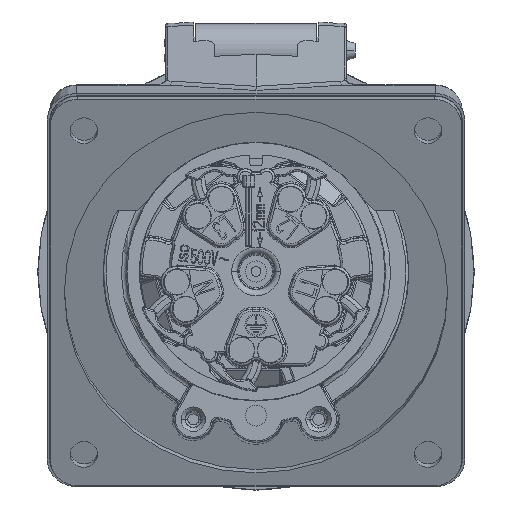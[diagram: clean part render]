
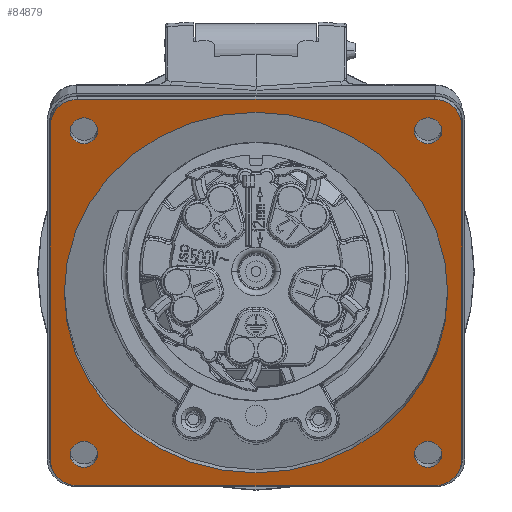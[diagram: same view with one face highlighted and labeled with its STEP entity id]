
A CAD part, top view. The second image highlights one B-rep face of the part: STEP entity #84879.
In plain terms, the highlighted planar face has unit normal (0, -0.342, 0.94).
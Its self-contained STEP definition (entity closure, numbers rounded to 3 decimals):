
#12987=CARTESIAN_POINT('',(36.3,-38.383,24.626));
#12988=DIRECTION('',(0.,-0.342,0.94));
#12989=DIRECTION('',(0.,-0.94,-0.342));
#12990=AXIS2_PLACEMENT_3D('',#12987,#12988,#12989);
#12995=DIRECTION('',(1.,0.,0.));
#12996=VECTOR('',#12995,72.6);
#12997=CARTESIAN_POINT('',(-36.3,-43.551,22.745));
#12998=LINE('4707',#12997,#12996);
#13002=CARTESIAN_POINT('',(-36.3,-38.383,24.626));
#13003=DIRECTION('',(0.,-0.342,0.94));
#13004=DIRECTION('',(-1.,0.,0.));
#13005=AXIS2_PLACEMENT_3D('',#13002,#13003,#13004);
#13010=DIRECTION('',(0.,-0.94,-0.342));
#13011=VECTOR('',#13010,72.6);
#13012=CARTESIAN_POINT('',(-41.8,29.839,49.457));
#13013=LINE('4705',#13012,#13011);
#13017=CARTESIAN_POINT('',(-36.3,29.839,49.457));
#13018=DIRECTION('',(0.,-0.342,0.94));
#13019=DIRECTION('',(0.,0.94,0.342));
#13020=AXIS2_PLACEMENT_3D('',#13017,#13018,#13019);
#13025=DIRECTION('',(-1.,0.,0.));
#13026=VECTOR('',#13025,72.6);
#13027=CARTESIAN_POINT('',(36.3,35.007,51.338));
#13028=LINE('4703',#13027,#13026);
#13032=CARTESIAN_POINT('',(36.3,29.839,49.457));
#13033=DIRECTION('',(0.,-0.342,0.94));
#13034=DIRECTION('',(1.,0.,0.));
#13035=AXIS2_PLACEMENT_3D('',#13032,#13033,#13034);
#13040=DIRECTION('',(0.,0.94,0.342));
#13041=VECTOR('',#13040,72.6);
#13042=CARTESIAN_POINT('',(41.8,-38.383,24.626));
#13043=LINE('4701',#13042,#13041);
#13047=CARTESIAN_POINT('',(0.,-4.272,37.041));
#13048=DIRECTION('',(0.,0.342,-0.94));
#13049=DIRECTION('',(-1.,0.,0.));
#13050=AXIS2_PLACEMENT_3D('',#13047,#13048,#13049);
#13055=CARTESIAN_POINT('',(0.,-4.272,37.041));
#13056=DIRECTION('',(0.,0.342,-0.94));
#13057=DIRECTION('',(1.,0.,0.));
#13058=AXIS2_PLACEMENT_3D('',#13055,#13056,#13057);
#13063=CARTESIAN_POINT('',(35.,-37.161,25.071));
#13064=DIRECTION('',(0.,0.342,-0.94));
#13065=DIRECTION('',(1.,0.,0.));
#13066=AXIS2_PLACEMENT_3D('',#13063,#13064,#13065);
#13071=CARTESIAN_POINT('',(35.,-37.161,25.071));
#13072=DIRECTION('',(0.,0.342,-0.94));
#13073=DIRECTION('',(-1.,0.,0.));
#13074=AXIS2_PLACEMENT_3D('',#13071,#13072,#13073);
#13079=CARTESIAN_POINT('',(-35.,-37.161,25.071));
#13080=DIRECTION('',(0.,0.342,-0.94));
#13081=DIRECTION('',(1.,0.,0.));
#13082=AXIS2_PLACEMENT_3D('',#13079,#13080,#13081);
#13087=CARTESIAN_POINT('',(-35.,-37.161,25.071));
#13088=DIRECTION('',(0.,0.342,-0.94));
#13089=DIRECTION('',(-1.,0.,0.));
#13090=AXIS2_PLACEMENT_3D('',#13087,#13088,#13089);
#13095=CARTESIAN_POINT('',(35.,28.617,49.012));
#13096=DIRECTION('',(0.,0.342,-0.94));
#13097=DIRECTION('',(1.,0.,0.));
#13098=AXIS2_PLACEMENT_3D('',#13095,#13096,#13097);
#13103=CARTESIAN_POINT('',(35.,28.617,49.012));
#13104=DIRECTION('',(0.,0.342,-0.94));
#13105=DIRECTION('',(-1.,0.,0.));
#13106=AXIS2_PLACEMENT_3D('',#13103,#13104,#13105);
#13111=CARTESIAN_POINT('',(-35.,28.617,49.012));
#13112=DIRECTION('',(0.,0.342,-0.94));
#13113=DIRECTION('',(1.,0.,0.));
#13114=AXIS2_PLACEMENT_3D('',#13111,#13112,#13113);
#13119=CARTESIAN_POINT('',(-35.,28.617,49.012));
#13120=DIRECTION('',(0.,0.342,-0.94));
#13121=DIRECTION('',(-1.,0.,0.));
#13122=AXIS2_PLACEMENT_3D('',#13119,#13120,#13121);
#58798=CARTESIAN_POINT('',(-39.,-4.272,37.041));
#58799=CARTESIAN_POINT('',(39.,-4.272,37.041));
#58800=VERTEX_POINT('',#58798);
#58801=VERTEX_POINT('',#58799);
#58802=CARTESIAN_POINT('',(36.3,-43.551,22.745));
#58803=CARTESIAN_POINT('',(41.8,-38.383,24.626));
#58804=VERTEX_POINT('',#58802);
#58805=VERTEX_POINT('',#58803);
#58806=CARTESIAN_POINT('',(41.8,29.839,49.457));
#58807=VERTEX_POINT('',#58806);
#58808=CARTESIAN_POINT('',(36.3,35.007,51.338));
#58809=VERTEX_POINT('',#58808);
#58810=CARTESIAN_POINT('',(-36.3,35.007,51.338));
#58811=VERTEX_POINT('',#58810);
#58812=CARTESIAN_POINT('',(-41.8,29.839,49.457));
#58813=VERTEX_POINT('',#58812);
#58814=CARTESIAN_POINT('',(-41.8,-38.383,24.626));
#58815=VERTEX_POINT('',#58814);
#58816=CARTESIAN_POINT('',(-36.3,-43.551,22.745));
#58817=VERTEX_POINT('',#58816);
#58818=CARTESIAN_POINT('',(37.8,-37.161,25.071));
#58819=CARTESIAN_POINT('',(32.2,-37.161,25.071));
#58820=VERTEX_POINT('',#58818);
#58821=VERTEX_POINT('',#58819);
#58822=CARTESIAN_POINT('',(-32.2,-37.161,25.071));
#58823=CARTESIAN_POINT('',(-37.8,-37.161,25.071));
#58824=VERTEX_POINT('',#58822);
#58825=VERTEX_POINT('',#58823);
#58826=CARTESIAN_POINT('',(37.8,28.617,49.012));
#58827=CARTESIAN_POINT('',(32.2,28.617,49.012));
#58828=VERTEX_POINT('',#58826);
#58829=VERTEX_POINT('',#58827);
#58830=CARTESIAN_POINT('',(-32.2,28.617,49.012));
#58831=CARTESIAN_POINT('',(-37.8,28.617,49.012));
#58832=VERTEX_POINT('',#58830);
#58833=VERTEX_POINT('',#58831);
#84834=CARTESIAN_POINT('',(0.,-4.272,37.041));
#84835=DIRECTION('',(0.,-0.342,0.94));
#84836=DIRECTION('',(-1.,0.,0.));
#84837=AXIS2_PLACEMENT_3D('',#84834,#84835,#84836);
#84838=PLANE('1055',#84837);
#84839=ORIENTED_EDGE('4700',*,*,#84588,.F.);
#84840=ORIENTED_EDGE('4707',*,*,#84647,.F.);
#84841=ORIENTED_EDGE('4706',*,*,#84674,.F.);
#84842=ORIENTED_EDGE('4705',*,*,#84733,.F.);
#84843=ORIENTED_EDGE('4704',*,*,#84760,.F.);
#84844=ORIENTED_EDGE('4703',*,*,#84816,.F.);
#84845=ORIENTED_EDGE('4702',*,*,#84502,.F.);
#84846=ORIENTED_EDGE('4701',*,*,#84561,.F.);
#84847=EDGE_LOOP('1055',(#84839,#84840,#84841,#84842,#84843,#84844,#84845,
#84846));
#84848=FACE_OUTER_BOUND('1055',#84847,.F.);
#84850=ORIENTED_EDGE('4698',*,*,#84849,.F.);
#84852=ORIENTED_EDGE('4699',*,*,#84851,.F.);
#84853=EDGE_LOOP('1055',(#84850,#84852));
#84854=FACE_BOUND('1055',#84853,.F.);
#84856=ORIENTED_EDGE('4708',*,*,#84855,.F.);
#84858=ORIENTED_EDGE('4709',*,*,#84857,.F.);
#84859=EDGE_LOOP('1055',(#84856,#84858));
#84860=FACE_BOUND('1055',#84859,.F.);
#84862=ORIENTED_EDGE('4710',*,*,#84861,.F.);
#84864=ORIENTED_EDGE('4711',*,*,#84863,.F.);
#84865=EDGE_LOOP('1055',(#84862,#84864));
#84866=FACE_BOUND('1055',#84865,.F.);
#84868=ORIENTED_EDGE('4712',*,*,#84867,.F.);
#84870=ORIENTED_EDGE('4713',*,*,#84869,.F.);
#84871=EDGE_LOOP('1055',(#84868,#84870));
#84872=FACE_BOUND('1055',#84871,.F.);
#84874=ORIENTED_EDGE('4714',*,*,#84873,.F.);
#84876=ORIENTED_EDGE('4715',*,*,#84875,.F.);
#84877=EDGE_LOOP('1055',(#84874,#84876));
#84878=FACE_BOUND('1055',#84877,.F.);
#12991=CIRCLE('4700',#12990,5.5);
#13006=CIRCLE('4706',#13005,5.5);
#13021=CIRCLE('4704',#13020,5.5);
#13036=CIRCLE('4702',#13035,5.5);
#13051=CIRCLE('4698',#13050,39.);
#13059=CIRCLE('4699',#13058,39.);
#13067=CIRCLE('4708',#13066,2.8);
#13075=CIRCLE('4709',#13074,2.8);
#13083=CIRCLE('4710',#13082,2.8);
#13091=CIRCLE('4711',#13090,2.8);
#13099=CIRCLE('4712',#13098,2.8);
#13107=CIRCLE('4713',#13106,2.8);
#13115=CIRCLE('4714',#13114,2.8);
#13123=CIRCLE('4715',#13122,2.8);
#84502=EDGE_CURVE('4702',#58807,#58809,#13036,.T.);
#84561=EDGE_CURVE('4701',#58805,#58807,#13043,.T.);
#84588=EDGE_CURVE('4700',#58804,#58805,#12991,.T.);
#84647=EDGE_CURVE('4707',#58817,#58804,#12998,.T.);
#84674=EDGE_CURVE('4706',#58815,#58817,#13006,.T.);
#84733=EDGE_CURVE('4705',#58813,#58815,#13013,.T.);
#84760=EDGE_CURVE('4704',#58811,#58813,#13021,.T.);
#84816=EDGE_CURVE('4703',#58809,#58811,#13028,.T.);
#84849=EDGE_CURVE('4698',#58800,#58801,#13051,.T.);
#84851=EDGE_CURVE('4699',#58801,#58800,#13059,.T.);
#84855=EDGE_CURVE('4708',#58820,#58821,#13067,.T.);
#84857=EDGE_CURVE('4709',#58821,#58820,#13075,.T.);
#84861=EDGE_CURVE('4710',#58824,#58825,#13083,.T.);
#84863=EDGE_CURVE('4711',#58825,#58824,#13091,.T.);
#84867=EDGE_CURVE('4712',#58828,#58829,#13099,.T.);
#84869=EDGE_CURVE('4713',#58829,#58828,#13107,.T.);
#84873=EDGE_CURVE('4714',#58832,#58833,#13115,.T.);
#84875=EDGE_CURVE('4715',#58833,#58832,#13123,.T.);
#84879=ADVANCED_FACE('1055',(#84848,#84854,#84860,#84866,#84872,#84878),#84838,
.T.);
